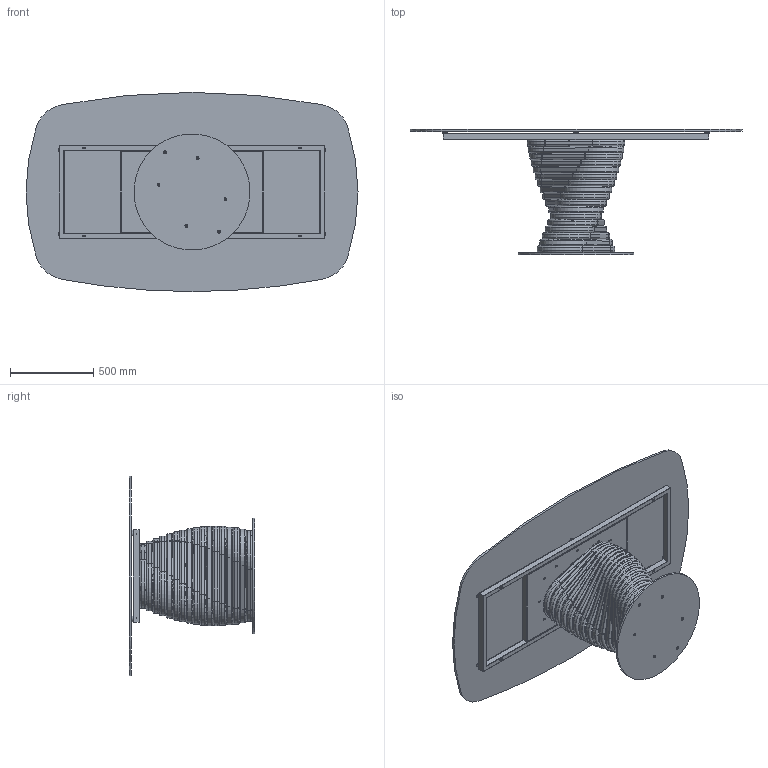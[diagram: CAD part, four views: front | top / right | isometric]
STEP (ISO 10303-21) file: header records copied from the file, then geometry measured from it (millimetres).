
FILE_DESCRIPTION (( 'STEP AP203' ), '1' );
FILE_NAME ('RO41G.STEP', '2024-08-07T13:40:34', ( '' ), ( '' ), 'SwSTEP 2.0', 'SolidWorks 2022', '' );
FILE_SCHEMA (( 'CONFIG_CONTROL_DESIGN' ));
Length unit declared in the file: millimetre
Products named in the file (15): RO41G; ROBX00000INF-00-Anello rotolo INFERIORE_Default<A macchina>; COLLO TELAIO UNIVERSALE TTAV01 CON FERRAMENTA_MTG TOP CRISTALLO VERNICIATO-CERAMICA; TTAV01_01-05-TELAIO UNIVERSALE X TAVOLI 180 240cm; rondella M8_8X24; 434070-00-PIEDINO TPV GOMMA NERO D. 30x8max18_filo estetico; M8xXXmm_hex_M8X20mm; C4XCRXX-00-Piani Sagomati in Cristallo_2000x1200; ROBX00000MED-00-Anello rotolo MEDIO_Default<A macchina>; ROBX00000SUP-00-Anello rotolo SUPERIORE_Default<A macchina>; ROBX00000-00-ROTOLO BASE 17 ANELLI; TTAV01-05-TELAIO UNIVERSALE X TAVOLI 180 240cm; TTAV01_02-05-VASSOIO IRRIGIDIMENTO TELAIO UNIVERSALE; M8xXXmm_M8x20mm; ROB200000-00-PIASTRA BASE_Ø70cm
Assembly tree (44 placements, depth 4):
  RO41G
    ROB200000-00-PIASTRA BASE_Ø70cm
    ROBX00000-00-ROTOLO BASE 17 ANELLI
      ROBX00000INF-00-Anello rotolo INFERIORE_Default<A macchina>
      ROBX00000MED-00-Anello rotolo MEDIO_Default<A macchina>  x15
      ROBX00000SUP-00-Anello rotolo SUPERIORE_Default<A macchina>
    M8xXXmm_hex_M8X20mm  x6
    COLLO TELAIO UNIVERSALE TTAV01 CON FERRAMENTA_MTG TOP CRISTALLO VERNICIATO-CERAMICA
      TTAV01-05-TELAIO UNIVERSALE X TAVOLI 180 240cm
        TTAV01_02-05-VASSOIO IRRIGIDIMENTO TELAIO UNIVERSALE
        TTAV01_01-05-TELAIO UNIVERSALE X TAVOLI 180 240cm
      434070-00-PIEDINO TPV GOMMA NERO D. 30x8max18_filo estetico  x6
    rondella M8_8X24  x4
    M8xXXmm_M8x20mm  x4
    C4XCRXX-00-Piani Sagomati in Cristallo_2000x1200
Bounding box: 2000 x 754 x 1200 mm (x, y, z)
Volume: 39209809.6 mm3; surface area: 12256367.5 mm2
Topology: 98 solids, 98 shells, 1497 faces, 3551 edges, 2224 vertices
Faces by surface type: plane 614, cylinder 555, torus 220, cone 100, sphere 8
Entity records: 20757 total; most frequent: CARTESIAN_POINT 4705, DIRECTION 2978, ORIENTED_EDGE 2742, EDGE_CURVE 1371, AXIS2_PLACEMENT_3D 1118, VERTEX_POINT 869, LINE 742, VECTOR 742
